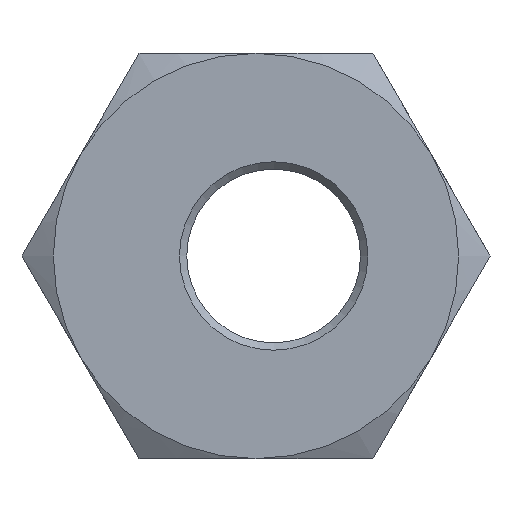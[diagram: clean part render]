
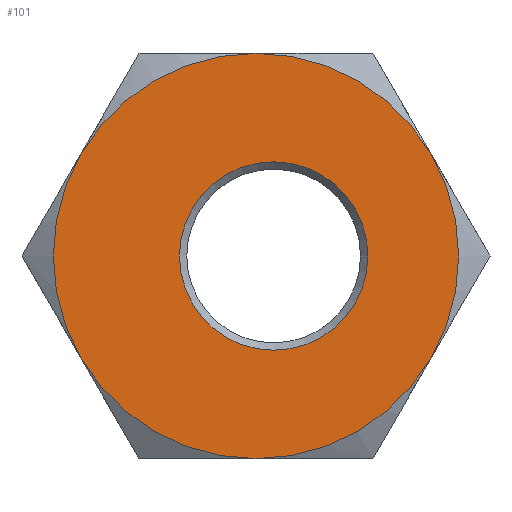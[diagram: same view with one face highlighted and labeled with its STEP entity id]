
A CAD part, left-side view. The second image highlights one B-rep face of the part: STEP entity #101.
In plain terms, the highlighted planar face has unit normal (-1, 0, 0).
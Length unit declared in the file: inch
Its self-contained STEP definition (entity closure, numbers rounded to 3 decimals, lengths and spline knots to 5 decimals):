
#101 = ADVANCED_FACE( '', ( #205, #206 ), #207, .F. );
#205 = FACE_OUTER_BOUND( '', #302, .T. );
#206 = FACE_BOUND( '', #303, .T. );
#207 = PLANE( '', #304 );
#302 = EDGE_LOOP( '', ( #500, #501, #502, #503, #504, #505 ) );
#303 = EDGE_LOOP( '', ( #506 ) );
#304 = AXIS2_PLACEMENT_3D( '', #507, #508, #509 );
#500 = ORIENTED_EDGE( '', *, *, #567, .F. );
#501 = ORIENTED_EDGE( '', *, *, #550, .F. );
#502 = ORIENTED_EDGE( '', *, *, #585, .F. );
#503 = ORIENTED_EDGE( '', *, *, #592, .F. );
#504 = ORIENTED_EDGE( '', *, *, #555, .F. );
#505 = ORIENTED_EDGE( '', *, *, #536, .F. );
#506 = ORIENTED_EDGE( '', *, *, #564, .T. );
#507 = CARTESIAN_POINT( '', ( 0., 0., 0. ) );
#508 = DIRECTION( '', ( 1., 0., 0. ) );
#509 = DIRECTION( '', ( 0., 0., -1. ) );
#536 = EDGE_CURVE( '', #626, #627, #628, .T. );
#550 = EDGE_CURVE( '', #609, #649, #650, .T. );
#555 = EDGE_CURVE( '', #627, #653, #657, .T. );
#564 = EDGE_CURVE( '', #669, #669, #670, .T. );
#567 = EDGE_CURVE( '', #649, #626, #674, .T. );
#585 = EDGE_CURVE( '', #622, #609, #694, .T. );
#592 = EDGE_CURVE( '', #653, #622, #701, .T. );
#609 = VERTEX_POINT( '', #730 );
#622 = VERTEX_POINT( '', #766 );
#626 = VERTEX_POINT( '', #782 );
#627 = VERTEX_POINT( '', #783 );
#628 = CIRCLE( '', #784, 0.27559 );
#649 = VERTEX_POINT( '', #815 );
#650 = CIRCLE( '', #816, 0.27559 );
#653 = VERTEX_POINT( '', #826 );
#657 = CIRCLE( '', #842, 0.27559 );
#669 = VERTEX_POINT( '', #866 );
#670 = CIRCLE( '', #867, 0.12811 );
#674 = CIRCLE( '', #876, 0.27559 );
#694 = CIRCLE( '', #940, 0.27559 );
#701 = CIRCLE( '', #952, 0.27559 );
#730 = CARTESIAN_POINT( '', ( 0., 0., -0.27559 ) );
#766 = CARTESIAN_POINT( '', ( 0., -0.23867, -0.1378 ) );
#782 = CARTESIAN_POINT( '', ( 0., 0.23867, 0.1378 ) );
#783 = CARTESIAN_POINT( '', ( 0., 0., 0.27559 ) );
#784 = AXIS2_PLACEMENT_3D( '', #966, #967, #968 );
#815 = CARTESIAN_POINT( '', ( 0., 0.23867, -0.1378 ) );
#816 = AXIS2_PLACEMENT_3D( '', #993, #994, #995 );
#826 = CARTESIAN_POINT( '', ( 0., -0.23867, 0.1378 ) );
#842 = AXIS2_PLACEMENT_3D( '', #996, #997, #998 );
#866 = CARTESIAN_POINT( '', ( 0., -0.02402, -0.12811 ) );
#867 = AXIS2_PLACEMENT_3D( '', #1005, #1006, #1007 );
#876 = AXIS2_PLACEMENT_3D( '', #1008, #1009, #1010 );
#940 = AXIS2_PLACEMENT_3D( '', #1014, #1015, #1016 );
#952 = AXIS2_PLACEMENT_3D( '', #1017, #1018, #1019 );
#966 = CARTESIAN_POINT( '', ( 0., 0., 0. ) );
#967 = DIRECTION( '', ( 1., 0., 0. ) );
#968 = DIRECTION( '', ( 0., 0., -1. ) );
#993 = CARTESIAN_POINT( '', ( 0., 0., 0. ) );
#994 = DIRECTION( '', ( 1., 0., 0. ) );
#995 = DIRECTION( '', ( 0., 0., -1. ) );
#996 = CARTESIAN_POINT( '', ( 0., 0., 0. ) );
#997 = DIRECTION( '', ( 1., 0., 0. ) );
#998 = DIRECTION( '', ( 0., 0., -1. ) );
#1005 = CARTESIAN_POINT( '', ( 0., -0.02402, 0. ) );
#1006 = DIRECTION( '', ( 1., 0., 0. ) );
#1007 = DIRECTION( '', ( 0., 0., -1. ) );
#1008 = CARTESIAN_POINT( '', ( 0., 0., 0. ) );
#1009 = DIRECTION( '', ( 1., 0., 0. ) );
#1010 = DIRECTION( '', ( 0., 0., -1. ) );
#1014 = CARTESIAN_POINT( '', ( 0., 0., 0. ) );
#1015 = DIRECTION( '', ( 1., 0., 0. ) );
#1016 = DIRECTION( '', ( 0., 0., -1. ) );
#1017 = CARTESIAN_POINT( '', ( 0., 0., 0. ) );
#1018 = DIRECTION( '', ( 1., 0., 0. ) );
#1019 = DIRECTION( '', ( 0., 0., -1. ) );
